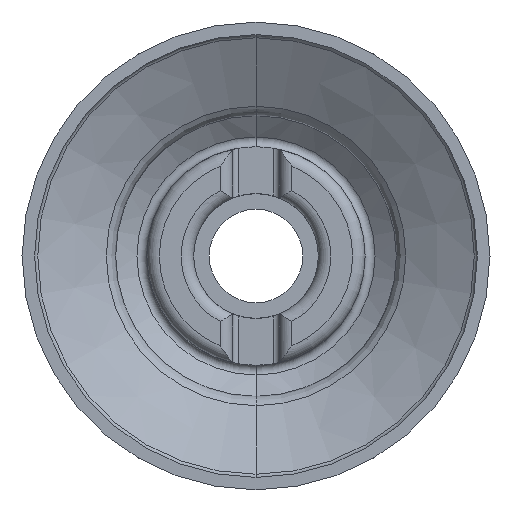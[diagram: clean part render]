
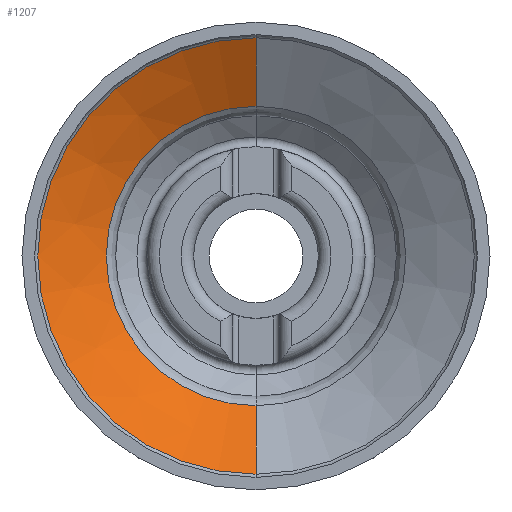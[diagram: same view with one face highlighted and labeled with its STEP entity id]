
A CAD part, front view. The second image highlights one B-rep face of the part: STEP entity #1207.
In plain terms, the highlighted conical face has half-angle 60 degrees and reference radius 4.8 mm.
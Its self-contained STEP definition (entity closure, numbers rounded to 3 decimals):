
#26 = DIRECTION ( 'NONE',  ( 0., -0.5, 0.866 ) ) ;
#49 = CARTESIAN_POINT ( 'NONE',  ( 0., 0.31, -7. ) ) ;
#57 = CARTESIAN_POINT ( 'NONE',  ( 0., 1.58, 0. ) ) ;
#109 = VECTOR ( 'NONE', #3040, 1000. ) ;
#156 = VERTEX_POINT ( 'NONE', #1524 ) ;
#247 = EDGE_CURVE ( 'NONE', #1710, #2789, #385, .T. ) ;
#287 = LINE ( 'NONE', #1285, #656 ) ;
#307 = VERTEX_POINT ( 'NONE', #49 ) ;
#385 = CIRCLE ( 'NONE', #1233, 4.8 ) ;
#415 = DIRECTION ( 'NONE',  ( 0., -1., 0. ) ) ;
#576 = DIRECTION ( 'NONE',  ( 0., 1., 0. ) ) ;
#656 = VECTOR ( 'NONE', #26, 1000. ) ;
#693 = ORIENTED_EDGE ( 'NONE', *, *, #247, .T. ) ;
#724 = EDGE_CURVE ( 'NONE', #307, #156, #1174, .T. ) ;
#770 = ORIENTED_EDGE ( 'NONE', *, *, #1886, .T. ) ;
#779 = EDGE_CURVE ( 'NONE', #1710, #307, #1261, .T. ) ;
#934 = CARTESIAN_POINT ( 'NONE',  ( 0., 0.31, 0. ) ) ;
#937 = CARTESIAN_POINT ( 'NONE',  ( 0., 1.58, 0. ) ) ;
#978 = DIRECTION ( 'NONE',  ( 0., 0., 1. ) ) ;
#1106 = AXIS2_PLACEMENT_3D ( 'NONE', #937, #415, #1641 ) ;
#1174 = CIRCLE ( 'NONE', #1435, 7. ) ;
#1204 = CARTESIAN_POINT ( 'NONE',  ( 0., 1.58, 4.8 ) ) ;
#1207 = ADVANCED_FACE ( 'NONE', ( #1675 ), #2388, .F. ) ;
#1233 = AXIS2_PLACEMENT_3D ( 'NONE', #57, #576, #2860 ) ;
#1261 = LINE ( 'NONE', #1302, #109 ) ;
#1285 = CARTESIAN_POINT ( 'NONE',  ( 0., 1.58, 4.8 ) ) ;
#1302 = CARTESIAN_POINT ( 'NONE',  ( 0., 1.58, -4.8 ) ) ;
#1435 = AXIS2_PLACEMENT_3D ( 'NONE', #934, #2195, #978 ) ;
#1524 = CARTESIAN_POINT ( 'NONE',  ( 0., 0.31, 7. ) ) ;
#1641 = DIRECTION ( 'NONE',  ( 0., 0., -1. ) ) ;
#1675 = FACE_OUTER_BOUND ( 'NONE', #3208, .T. ) ;
#1710 = VERTEX_POINT ( 'NONE', #3120 ) ;
#1886 = EDGE_CURVE ( 'NONE', #2789, #156, #287, .T. ) ;
#2190 = ORIENTED_EDGE ( 'NONE', *, *, #724, .F. ) ;
#2195 = DIRECTION ( 'NONE',  ( 0., 1., 0. ) ) ;
#2388 = CONICAL_SURFACE ( 'NONE', #1106, 4.8, 1.047 ) ;
#2789 = VERTEX_POINT ( 'NONE', #1204 ) ;
#2860 = DIRECTION ( 'NONE',  ( 0., 0., 1. ) ) ;
#2930 = ORIENTED_EDGE ( 'NONE', *, *, #779, .F. ) ;
#3040 = DIRECTION ( 'NONE',  ( 0., -0.5, -0.866 ) ) ;
#3120 = CARTESIAN_POINT ( 'NONE',  ( 0., 1.58, -4.8 ) ) ;
#3208 = EDGE_LOOP ( 'NONE', ( #693, #770, #2190, #2930 ) ) ;
